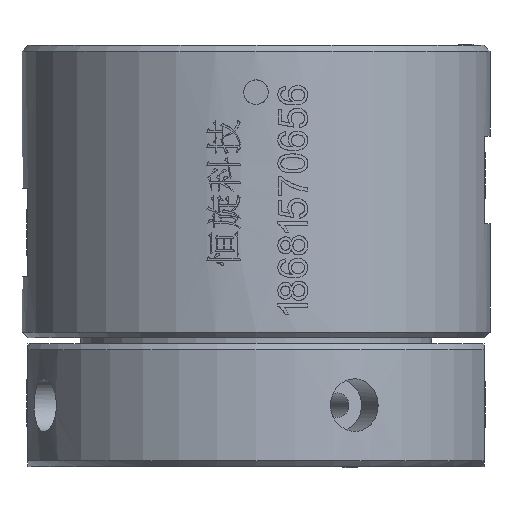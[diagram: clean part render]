
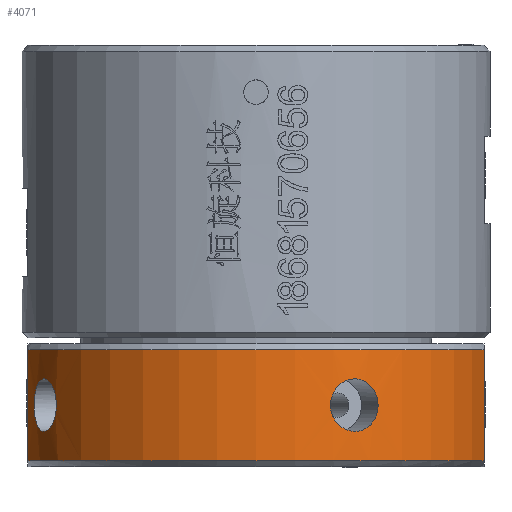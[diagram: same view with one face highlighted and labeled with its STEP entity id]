
A CAD part, front view. The second image highlights one B-rep face of the part: STEP entity #4071.
In plain terms, the highlighted cylindrical face has radius 40 mm (diameter 80 mm), a partial arc.
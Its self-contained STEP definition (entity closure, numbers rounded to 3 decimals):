
#185=CYLINDRICAL_SURFACE('',#24428,40.);
#407=FACE_BOUND('',#7163,.T.);
#408=FACE_BOUND('',#7164,.T.);
#409=FACE_BOUND('',#7165,.T.);
#654=CIRCLE('',#24426,40.);
#655=CIRCLE('',#24427,40.);
#1850=LINE('',#45105,#2883);
#1851=LINE('',#45110,#2884);
#2883=VECTOR('',#27038,1.);
#2884=VECTOR('',#27041,1.);
#4071=ADVANCED_FACE('',(#407,#408,#409),#185,.T.);
#7163=EDGE_LOOP('',(#12262));
#7164=EDGE_LOOP('',(#12263));
#7165=EDGE_LOOP('',(#12264,#12265,#12266,#12267));
#12262=ORIENTED_EDGE('',*,*,#19739,.F.);
#12263=ORIENTED_EDGE('',*,*,#19743,.F.);
#12264=ORIENTED_EDGE('',*,*,#19775,.T.);
#12265=ORIENTED_EDGE('',*,*,#19776,.T.);
#12266=ORIENTED_EDGE('',*,*,#19777,.T.);
#12267=ORIENTED_EDGE('',*,*,#19778,.T.);
#16476=VERTEX_POINT('',#44731);
#16480=VERTEX_POINT('',#44816);
#16512=VERTEX_POINT('',#45106);
#16513=VERTEX_POINT('',#45107);
#16514=VERTEX_POINT('',#45109);
#16515=VERTEX_POINT('',#45111);
#19739=EDGE_CURVE('',#16476,#16476,#22972,.T.);
#19743=EDGE_CURVE('',#16480,#16480,#22974,.T.);
#19775=EDGE_CURVE('',#16512,#16513,#1850,.T.);
#19776=EDGE_CURVE('',#16513,#16514,#654,.T.);
#19777=EDGE_CURVE('',#16514,#16515,#1851,.T.);
#19778=EDGE_CURVE('',#16515,#16512,#655,.T.);
#22972=B_SPLINE_CURVE_WITH_KNOTS('',3,(#44713,#44714,#44715,#44716,#44717,
#44718,#44719,#44720,#44721,#44722,#44723,#44724,#44725,#44726,#44727,#44728,
#44729,#44730),.UNSPECIFIED.,.T.,.F.,(2,2,2,2,2,2,2,2,2,2,2),(-0.125,0.,
0.125,0.25,0.375,0.5,0.625,0.75,0.875,1.,1.125),
 .UNSPECIFIED.);
#22974=B_SPLINE_CURVE_WITH_KNOTS('',3,(#44798,#44799,#44800,#44801,#44802,
#44803,#44804,#44805,#44806,#44807,#44808,#44809,#44810,#44811,#44812,#44813,
#44814,#44815),.UNSPECIFIED.,.T.,.F.,(2,2,2,2,2,2,2,2,2,2,2),(-0.125,0.,
0.125,0.25,0.375,0.5,0.625,0.75,0.875,1.,1.125),
 .UNSPECIFIED.);
#24426=AXIS2_PLACEMENT_3D('',#45108,#27039,#27040);
#24427=AXIS2_PLACEMENT_3D('',#45112,#27042,#27043);
#24428=AXIS2_PLACEMENT_3D('',#45113,#27044,#27045);
#27038=DIRECTION('',(0.,0.,-1.));
#27039=DIRECTION('',(0.,0.,1.));
#27040=DIRECTION('',(-1.,0.,0.));
#27041=DIRECTION('',(0.,0.,1.));
#27042=DIRECTION('',(0.,0.,-1.));
#27043=DIRECTION('',(1.,0.,0.));
#27044=DIRECTION('',(0.,0.,1.));
#27045=DIRECTION('',(1.,0.,0.));
#44713=CARTESIAN_POINT('',(-35.749,-17.983,15.));
#44714=CARTESIAN_POINT('',(-36.755,-15.826,15.));
#44715=CARTESIAN_POINT('',(-37.192,-14.747,14.511));
#44716=CARTESIAN_POINT('',(-37.773,-13.187,12.852));
#44717=CARTESIAN_POINT('',(-37.924,-12.72,11.677));
#44718=CARTESIAN_POINT('',(-37.924,-12.718,9.328));
#44719=CARTESIAN_POINT('',(-37.777,-13.177,8.16));
#44720=CARTESIAN_POINT('',(-37.189,-14.755,6.479));
#44721=CARTESIAN_POINT('',(-36.75,-15.838,6.));
#44722=CARTESIAN_POINT('',(-35.756,-17.968,6.));
#44723=CARTESIAN_POINT('',(-35.205,-19.008,6.486));
#44724=CARTESIAN_POINT('',(-34.383,-20.457,8.144));
#44725=CARTESIAN_POINT('',(-34.121,-20.875,9.306));
#44726=CARTESIAN_POINT('',(-34.12,-20.877,11.686));
#44727=CARTESIAN_POINT('',(-34.381,-20.46,12.849));
#44728=CARTESIAN_POINT('',(-35.202,-19.014,14.51));
#44729=CARTESIAN_POINT('',(-35.749,-17.983,15.));
#44730=CARTESIAN_POINT('',(-36.755,-15.826,15.));
#44731=CARTESIAN_POINT('',(-36.252,-16.905,15.));
#44798=CARTESIAN_POINT('',(17.983,-35.749,15.));
#44799=CARTESIAN_POINT('',(15.826,-36.755,15.));
#44800=CARTESIAN_POINT('',(14.747,-37.192,14.511));
#44801=CARTESIAN_POINT('',(13.187,-37.773,12.852));
#44802=CARTESIAN_POINT('',(12.72,-37.924,11.677));
#44803=CARTESIAN_POINT('',(12.718,-37.924,9.328));
#44804=CARTESIAN_POINT('',(13.177,-37.777,8.16));
#44805=CARTESIAN_POINT('',(14.755,-37.189,6.479));
#44806=CARTESIAN_POINT('',(15.838,-36.75,6.));
#44807=CARTESIAN_POINT('',(17.968,-35.756,6.));
#44808=CARTESIAN_POINT('',(19.008,-35.205,6.486));
#44809=CARTESIAN_POINT('',(20.457,-34.383,8.144));
#44810=CARTESIAN_POINT('',(20.875,-34.121,9.306));
#44811=CARTESIAN_POINT('',(20.877,-34.12,11.686));
#44812=CARTESIAN_POINT('',(20.46,-34.381,12.849));
#44813=CARTESIAN_POINT('',(19.014,-35.202,14.51));
#44814=CARTESIAN_POINT('',(17.983,-35.749,15.));
#44815=CARTESIAN_POINT('',(15.826,-36.755,15.));
#44816=CARTESIAN_POINT('',(16.905,-36.252,15.));
#45105=CARTESIAN_POINT('',(-39.,-8.888,0.));
#45106=CARTESIAN_POINT('',(-39.,-8.888,20.));
#45107=CARTESIAN_POINT('',(-39.,-8.888,1.));
#45108=CARTESIAN_POINT('',(0.,0.,1.));
#45109=CARTESIAN_POINT('',(39.,-8.888,1.));
#45110=CARTESIAN_POINT('',(39.,-8.888,0.));
#45111=CARTESIAN_POINT('',(39.,-8.888,20.));
#45112=CARTESIAN_POINT('',(0.,0.,20.));
#45113=CARTESIAN_POINT('',(0.,0.,0.));
